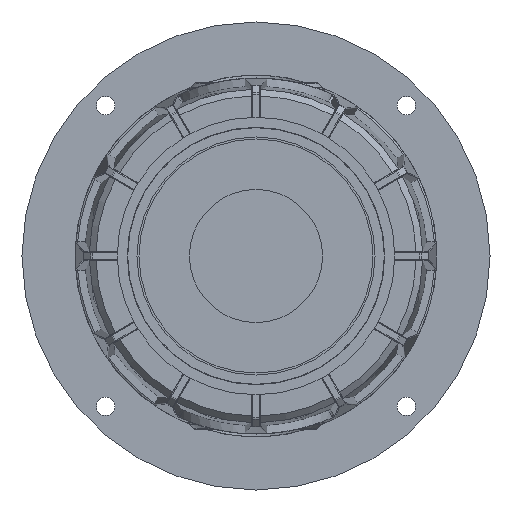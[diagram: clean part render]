
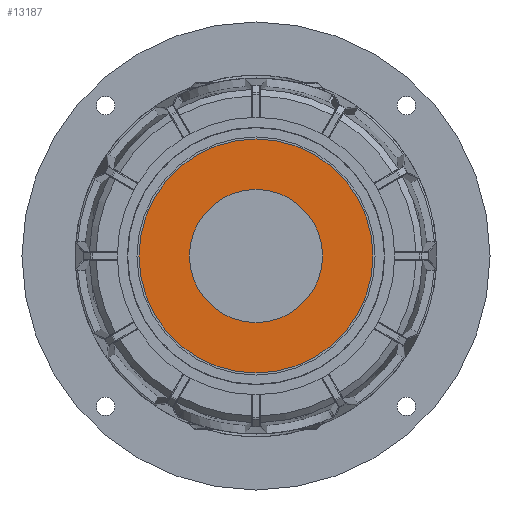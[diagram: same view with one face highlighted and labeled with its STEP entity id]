
A CAD part, front view. The second image highlights one B-rep face of the part: STEP entity #13187.
In plain terms, the highlighted planar face has unit normal (0, -1, 0).
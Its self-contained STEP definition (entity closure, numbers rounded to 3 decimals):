
#13046=CARTESIAN_POINT('',(0.,-5.9,0.));
#13047=DIRECTION('',(0.,1.,0.));
#13048=DIRECTION('',(1.,0.,0.));
#13049=AXIS2_PLACEMENT_3D('',#13046,#13047,#13048);
#13051=CARTESIAN_POINT('',(0.,-5.9,0.));
#13052=DIRECTION('',(0.,1.,0.));
#13053=DIRECTION('',(-1.,0.,0.));
#13054=AXIS2_PLACEMENT_3D('',#13051,#13052,#13053);
#13056=CARTESIAN_POINT('',(0.,-5.9,0.));
#13057=DIRECTION('',(0.,-1.,0.));
#13058=DIRECTION('',(1.,0.,0.));
#13059=AXIS2_PLACEMENT_3D('',#13056,#13057,#13058);
#13061=CARTESIAN_POINT('',(0.,-5.9,0.));
#13062=DIRECTION('',(0.,-1.,0.));
#13063=DIRECTION('',(-1.,0.,0.));
#13064=AXIS2_PLACEMENT_3D('',#13061,#13062,#13063);
#13110=CARTESIAN_POINT('',(29.,-5.9,0.));
#13111=VERTEX_POINT('',#13110);
#13112=CARTESIAN_POINT('',(-29.,-5.9,0.));
#13113=VERTEX_POINT('',#13112);
#13114=CARTESIAN_POINT('',(16.5,-5.9,0.));
#13115=CARTESIAN_POINT('',(-16.5,-5.9,0.));
#13116=VERTEX_POINT('',#13114);
#13117=VERTEX_POINT('',#13115);
#13172=CARTESIAN_POINT('',(0.,-5.9,0.));
#13173=DIRECTION('',(0.,-1.,0.));
#13174=DIRECTION('',(-1.,0.,0.));
#13175=AXIS2_PLACEMENT_3D('',#13172,#13173,#13174);
#13176=PLANE('',#13175);
#13177=ORIENTED_EDGE('',*,*,#13165,.T.);
#13178=ORIENTED_EDGE('',*,*,#13151,.T.);
#13179=EDGE_LOOP('',(#13177,#13178));
#13180=FACE_OUTER_BOUND('',#13179,.F.);
#13182=ORIENTED_EDGE('',*,*,#13181,.T.);
#13184=ORIENTED_EDGE('',*,*,#13183,.T.);
#13185=EDGE_LOOP('',(#13182,#13184));
#13186=FACE_BOUND('',#13185,.F.);
#13187=ADVANCED_FACE('',(#13180,#13186),#13176,.T.);
#13050=CIRCLE('',#13049,29.);
#13055=CIRCLE('',#13054,29.);
#13060=CIRCLE('',#13059,16.5);
#13065=CIRCLE('',#13064,16.5);
#13151=EDGE_CURVE('',#13113,#13111,#13055,.T.);
#13165=EDGE_CURVE('',#13111,#13113,#13050,.T.);
#13181=EDGE_CURVE('',#13116,#13117,#13060,.T.);
#13183=EDGE_CURVE('',#13117,#13116,#13065,.T.);
